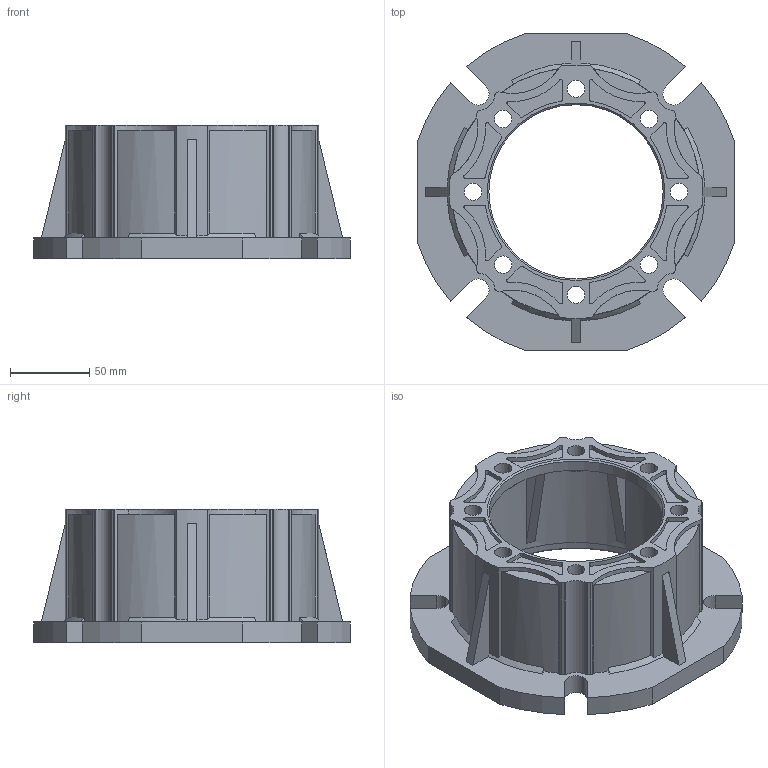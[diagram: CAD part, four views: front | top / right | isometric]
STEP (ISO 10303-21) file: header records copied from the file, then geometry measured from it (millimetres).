
FILE_DESCRIPTION (( 'STEP AP203' ), '1' );
FILE_NAME ('FCN 090-FD.STEP', '2017-01-19T05:52:46', ( 'jsk-23' ), ( 'hx' ), 'SwSTEP 2.0', 'SolidWorks 2012', '' );
FILE_SCHEMA (( 'CONFIG_CONTROL_DESIGN' ));
Length unit declared in the file: millimetre
Products named in the file (1): FCN 090-FD
Bounding box: 200 x 200 x 84 mm (x, y, z)
Volume: 349657.8 mm3; surface area: 162660.4 mm2
Topology: 1 solids, 1 shells, 574 faces, 1595 edges, 1062 vertices
Faces by surface type: cylinder 345, plane 217, cone 12
Entity records: 18841 total; most frequent: DIRECTION 3461, CARTESIAN_POINT 3319, ORIENTED_EDGE 3190, EDGE_CURVE 1595, AXIS2_PLACEMENT_3D 1320, VERTEX_POINT 1062, VECTOR 821, LINE 821
